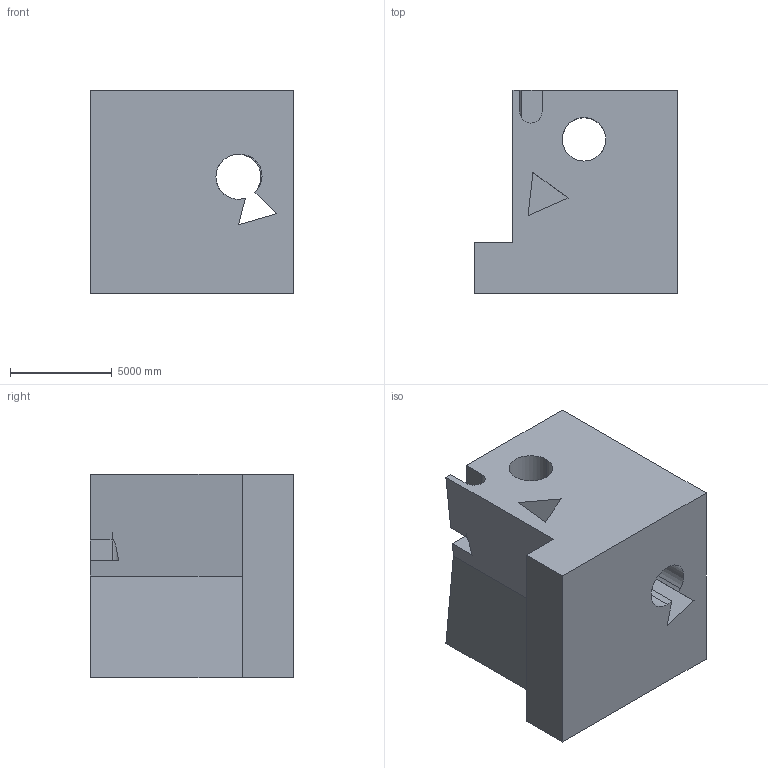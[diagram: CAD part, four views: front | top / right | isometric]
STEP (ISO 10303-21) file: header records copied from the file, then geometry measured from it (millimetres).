
FILE_DESCRIPTION (( 'STEP AP203' ), '1' );
FILE_NAME ('758.STEP', '2022-07-29T13:00:06', ( 'user' ), ( '' ), 'SwSTEP 2.0', 'SolidWorks 2021', '' );
FILE_SCHEMA (( 'CONFIG_CONTROL_DESIGN' ));
Length unit declared in the file: centimetre
Products named in the file (1): 758
Bounding box: 10000 x 10000 x 10000 mm (x, y, z)
Volume: 710236819439 mm3; surface area: 802024658.9 mm2
Topology: 1 solids, 1 shells, 45 faces, 132 edges, 88 vertices
Faces by surface type: plane 36, cylinder 9
Entity records: 1678 total; most frequent: CARTESIAN_POINT 418, ORIENTED_EDGE 264, DIRECTION 226, EDGE_CURVE 132, VECTOR 98, LINE 98, VERTEX_POINT 88, AXIS2_PLACEMENT_3D 64
